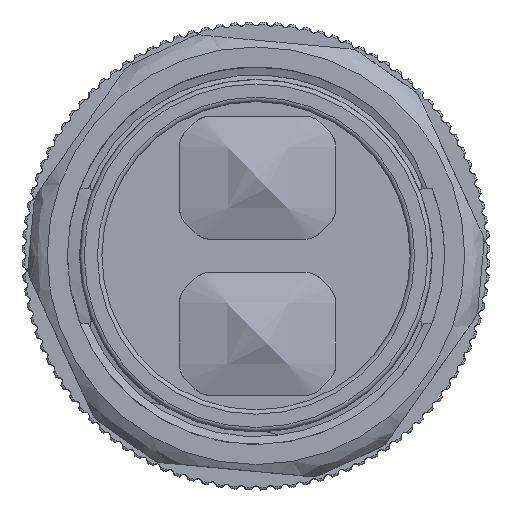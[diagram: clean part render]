
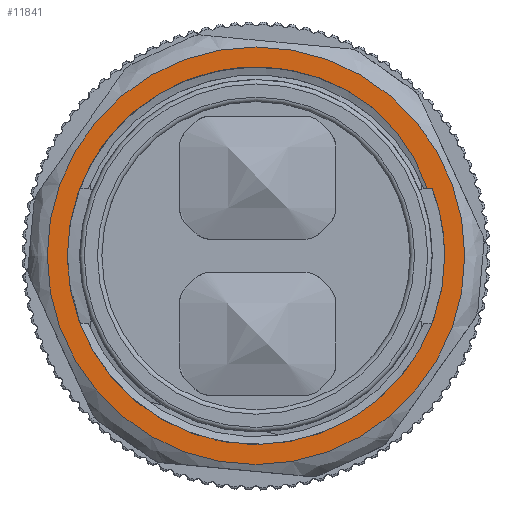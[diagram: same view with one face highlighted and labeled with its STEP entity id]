
A CAD part, top view. The second image highlights one B-rep face of the part: STEP entity #11841.
In plain terms, the highlighted planar face has unit normal (0, 0, 1) as drawn and (0, 0, -1) by its records, which use the part's own axes.
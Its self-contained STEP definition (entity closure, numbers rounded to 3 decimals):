
#813=ELLIPSE('',#12520,8.431,8.421);
#998=PLANE('',#12537);
#1069=FACE_BOUND('',#2018,.T.);
#1351=FACE_OUTER_BOUND('',#2017,.T.);
#2017=EDGE_LOOP('',(#8440));
#2018=EDGE_LOOP('',(#8441,#8442,#8443,#8444));
#2484=CIRCLE('',#12538,9.481);
#2485=CIRCLE('',#12539,8.57);
#2486=CIRCLE('',#12540,8.57);
#3313=LINE('',#47139,#3826);
#3826=VECTOR('',#13982,0.224);
#4489=VERTEX_POINT('',#39667);
#4490=VERTEX_POINT('',#39675);
#4609=VERTEX_POINT('',#47136);
#4610=VERTEX_POINT('',#47138);
#4611=VERTEX_POINT('',#47140);
#5881=EDGE_CURVE('',#4489,#4490,#813,.T.);
#6031=EDGE_CURVE('',#4609,#4609,#2484,.T.);
#6032=EDGE_CURVE('',#4489,#4610,#3313,.T.);
#6033=EDGE_CURVE('',#4610,#4611,#2485,.T.);
#6034=EDGE_CURVE('',#4611,#4490,#2486,.T.);
#8440=ORIENTED_EDGE('',*,*,#6031,.T.);
#8441=ORIENTED_EDGE('',*,*,#6032,.T.);
#8442=ORIENTED_EDGE('',*,*,#6033,.T.);
#8443=ORIENTED_EDGE('',*,*,#6034,.T.);
#8444=ORIENTED_EDGE('',*,*,#5881,.F.);
#11841=ADVANCED_FACE('',(#1351,#1069),#998,.F.);
#12520=AXIS2_PLACEMENT_3D('',#39676,#13914,#13915);
#12537=AXIS2_PLACEMENT_3D('',#47135,#13978,#13979);
#12538=AXIS2_PLACEMENT_3D('',#47137,#13980,#13981);
#12539=AXIS2_PLACEMENT_3D('',#47141,#13983,#13984);
#12540=AXIS2_PLACEMENT_3D('',#47142,#13985,#13986);
#13914=DIRECTION('center_axis',(0.,0.,
-1.));
#13915=DIRECTION('ref_axis',(0.912,-0.409,0.));
#13978=DIRECTION('center_axis',(0.,0.,1.));
#13979=DIRECTION('ref_axis',(1.,0.,0.));
#13980=DIRECTION('center_axis',(0.,0.,-1.));
#13981=DIRECTION('ref_axis',(-1.,0.,0.));
#13982=DIRECTION('',(1.,0.,0.));
#13983=DIRECTION('center_axis',(0.,0.,1.));
#13984=DIRECTION('ref_axis',(1.,0.,0.));
#13985=DIRECTION('center_axis',(0.,0.,1.));
#13986=DIRECTION('ref_axis',(1.,0.,0.));
#39667=CARTESIAN_POINT('',(7.778,-3.069,0.));
#39675=CARTESIAN_POINT('',(5.39,-6.663,0.));
#39676=CARTESIAN_POINT('Origin',(-0.205,-0.358,
0.));
#47135=CARTESIAN_POINT('Origin',(0.,0.,0.));
#47136=CARTESIAN_POINT('',(-9.481,0.,0.));
#47137=CARTESIAN_POINT('Origin',(0.,0.,0.));
#47138=CARTESIAN_POINT('',(8.002,-3.069,0.));
#47139=CARTESIAN_POINT('',(7.778,-3.069,0.));
#47140=CARTESIAN_POINT('',(8.57,0.,0.));
#47141=CARTESIAN_POINT('Origin',(0.,0.,0.));
#47142=CARTESIAN_POINT('Origin',(0.,0.,0.));
